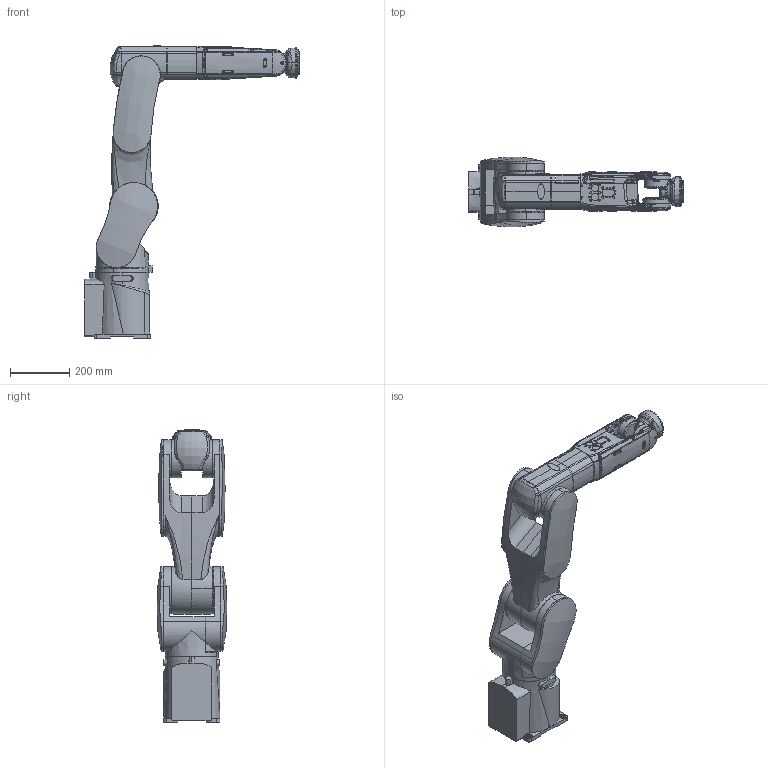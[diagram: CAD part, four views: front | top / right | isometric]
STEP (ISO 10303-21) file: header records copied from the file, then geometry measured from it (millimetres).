
FILE_DESCRIPTION (( 'STEP AP203' ), '1' );
FILE_NAME ('HH7 TOTAL 210729 1.STEP', '2023-05-24T00:45:29', ( 'fulluser' ), ( '' ), 'SwSTEP 2.0', 'SolidWorks 2020', '' );
FILE_SCHEMA (( 'CONFIG_CONTROL_DESIGN' ));
Length unit declared in the file: millimetre
Products named in the file (9): 餌獄 (2) ^HH7 TOTAL 210729(3)_HH7 TOTAL 210729 1; 餌獄 (3) ^HH7 TOTAL 210729(3)_HH7 TOTAL 210729 1; HH7 TOTAL 210729 1; P7900018950_00-ASSY_WRIST _ Wrist; 餌獄 (7) ^HH7 TOTAL 210729(3)_HH7 TOTAL 210729 1; 餌獄 (5) ^HH7 TOTAL 210729(3)_HH7 TOTAL 210729 1; HH7 TOTAL 210729(3)^HH7 TOTAL 210729 1; P7900018950_00-ASSY_WRIST _ MI; ^HH7 TOTAL 210729(3)_HH7 TOTAL 210729 1
Assembly tree (8 placements, depth 3):
  HH7 TOTAL 210729 1
    HH7 TOTAL 210729(3)^HH7 TOTAL 210729 1
      ^HH7 TOTAL 210729(3)_HH7 TOTAL 210729 1
      餌獄 (2) ^HH7 TOTAL 210729(3)_HH7 TOTAL 210729 1
      餌獄 (3) ^HH7 TOTAL 210729(3)_HH7 TOTAL 210729 1
      餌獄 (5) ^HH7 TOTAL 210729(3)_HH7 TOTAL 210729 1
      餌獄 (7) ^HH7 TOTAL 210729(3)_HH7 TOTAL 210729 1
      P7900018950_00-ASSY_WRIST _ Wrist
      P7900018950_00-ASSY_WRIST _ MI
Bounding box: 724.62 x 233.86 x 988.29 mm (x, y, z)
Volume: 29198087.7 mm3; surface area: 2240783.3 mm2
Topology: 22 solids, 62 shells, 3059 faces, 7353 edges, 4425 vertices
Faces by surface type: cylinder 915, bspline 907, plane 730, cone 287, torus 148, sphere 72
Entity records: 142987 total; most frequent: CARTESIAN_POINT 78403, ORIENTED_EDGE 14278, DIRECTION 11765, EDGE_CURVE 7139, AXIS2_PLACEMENT_3D 4820, VERTEX_POINT 4411, EDGE_LOOP 3322, FACE_OUTER_BOUND 3059
